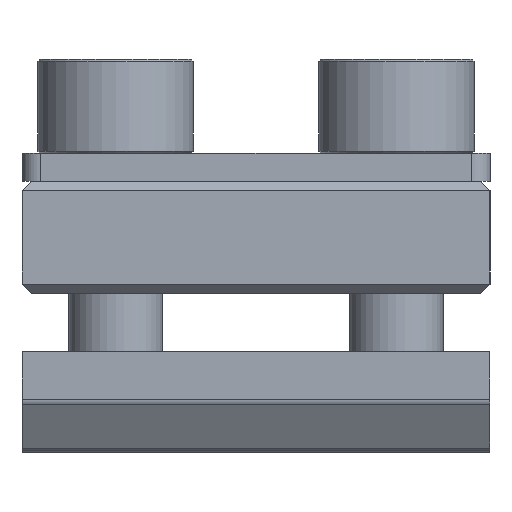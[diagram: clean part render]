
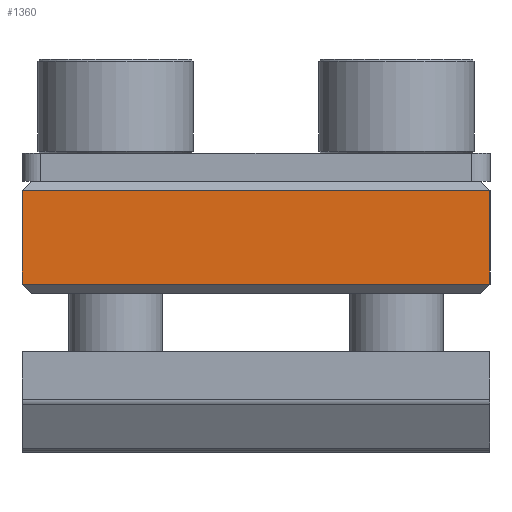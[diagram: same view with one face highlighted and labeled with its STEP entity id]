
A CAD part, front view. The second image highlights one B-rep face of the part: STEP entity #1360.
In plain terms, the highlighted planar face has unit normal (0, -1, 0).
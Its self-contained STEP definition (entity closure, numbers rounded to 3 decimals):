
#82 = CARTESIAN_POINT ( 'NONE',  ( 12.5, -52.5, 6. ) ) ;
#102 = ORIENTED_EDGE ( 'NONE', *, *, #4088, .T. ) ;
#343 = EDGE_CURVE ( 'NONE', #2830, #1625, #2503, .T. ) ;
#442 = CARTESIAN_POINT ( 'NONE',  ( -12.5, -52.5, 0.5 ) ) ;
#741 = VECTOR ( 'NONE', #1121, 1000. ) ;
#1020 = ORIENTED_EDGE ( 'NONE', *, *, #3797, .F. ) ;
#1098 = EDGE_LOOP ( 'NONE', ( #1020, #102, #1931, #2757 ) ) ;
#1121 = DIRECTION ( 'NONE',  ( 0., 0., -1. ) ) ;
#1125 = PLANE ( 'NONE',  #2910 ) ;
#1263 = VERTEX_POINT ( 'NONE', #3115 ) ;
#1317 = CARTESIAN_POINT ( 'NONE',  ( 12.5, -52.5, 5.5 ) ) ;
#1333 = EDGE_CURVE ( 'NONE', #1263, #2830, #3577, .T. ) ;
#1360 = ADVANCED_FACE ( 'NONE', ( #2851 ), #1125, .T. ) ;
#1534 = CARTESIAN_POINT ( 'NONE',  ( -12.5, -52.5, 6. ) ) ;
#1625 = VERTEX_POINT ( 'NONE', #2323 ) ;
#1691 = LINE ( 'NONE', #82, #741 ) ;
#1931 = ORIENTED_EDGE ( 'NONE', *, *, #1333, .T. ) ;
#2007 = DIRECTION ( 'NONE',  ( -1., 0., 0. ) ) ;
#2223 = VERTEX_POINT ( 'NONE', #1317 ) ;
#2323 = CARTESIAN_POINT ( 'NONE',  ( 12.5, -52.5, 0.5 ) ) ;
#2431 = VECTOR ( 'NONE', #4061, 1000. ) ;
#2503 = LINE ( 'NONE', #2847, #3254 ) ;
#2631 = CARTESIAN_POINT ( 'NONE',  ( 0., -52.5, 6. ) ) ;
#2747 = LINE ( 'NONE', #4145, #3535 ) ;
#2757 = ORIENTED_EDGE ( 'NONE', *, *, #343, .T. ) ;
#2830 = VERTEX_POINT ( 'NONE', #442 ) ;
#2847 = CARTESIAN_POINT ( 'NONE',  ( 12.5, -52.5, 0.5 ) ) ;
#2851 = FACE_OUTER_BOUND ( 'NONE', #1098, .T. ) ;
#2910 = AXIS2_PLACEMENT_3D ( 'NONE', #2631, #4001, #3689 ) ;
#3115 = CARTESIAN_POINT ( 'NONE',  ( -12.5, -52.5, 5.5 ) ) ;
#3254 = VECTOR ( 'NONE', #4627, 1000. ) ;
#3535 = VECTOR ( 'NONE', #2007, 1000. ) ;
#3577 = LINE ( 'NONE', #1534, #2431 ) ;
#3689 = DIRECTION ( 'NONE',  ( 0., 0., -1. ) ) ;
#3797 = EDGE_CURVE ( 'NONE', #2223, #1625, #1691, .T. ) ;
#4001 = DIRECTION ( 'NONE',  ( 0., -1., 0. ) ) ;
#4061 = DIRECTION ( 'NONE',  ( 0., 0., -1. ) ) ;
#4088 = EDGE_CURVE ( 'NONE', #2223, #1263, #2747, .T. ) ;
#4145 = CARTESIAN_POINT ( 'NONE',  ( 0., -52.5, 5.5 ) ) ;
#4627 = DIRECTION ( 'NONE',  ( 1., 0., 0. ) ) ;
